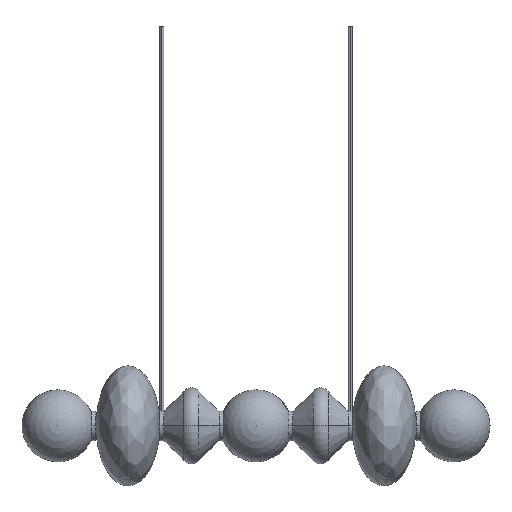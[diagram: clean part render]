
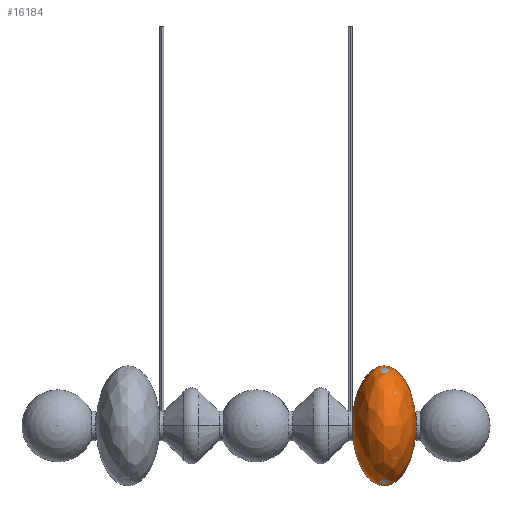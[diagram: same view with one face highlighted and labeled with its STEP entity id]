
A CAD part, top view. The second image highlights one B-rep face of the part: STEP entity #16184.
In plain terms, the highlighted free-form (B-spline) face has degree [3, 3] with [4, 4] control points.
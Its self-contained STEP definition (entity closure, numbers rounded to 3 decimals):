
#43 = EDGE_CURVE ( 'NONE', #19046, #16410, #8074, .T. ) ;
#373 = CARTESIAN_POINT ( 'NONE',  ( 240.564, -6., 0. ) ) ;
#482 = DIRECTION ( 'NONE',  ( -1., 0., 0. ) ) ;
#642 = CARTESIAN_POINT ( 'NONE',  ( 246.485, 283.333, 0. ) ) ;
#1115 = CARTESIAN_POINT ( 'NONE',  ( 400.436, 6., 12. ) ) ;
#1186 = CARTESIAN_POINT ( 'NONE',  ( 400.436, 6., 0. ) ) ;
#1834 = CIRCLE ( 'NONE', #21660, 6. ) ;
#2294 = DIRECTION ( 'NONE',  ( 0., 0., 1. ) ) ;
#2505 = VERTEX_POINT ( 'NONE', #19198 ) ;
#2628 = CARTESIAN_POINT ( 'NONE',  ( 394.515, 283.333, 0. ) ) ;
#3512 = EDGE_LOOP ( 'NONE', ( #9450, #13209, #11008, #4900, #20382, #10271 ) ) ;
#4097 = DIRECTION ( 'NONE',  ( -1., 0., 0. ) ) ;
#4369 = EDGE_CURVE ( 'NONE', #6235, #16410, #13677, .T. ) ;
#4423 = CARTESIAN_POINT ( 'NONE',  ( 400.436, -6., 12. ) ) ;
#4495 = CARTESIAN_POINT ( 'NONE',  ( 240.564, -6., 12. ) ) ;
#4571 = CARTESIAN_POINT ( 'NONE',  ( 240.564, -6., 0. ) ) ;
#4900 = ORIENTED_EDGE ( 'NONE', *, *, #4369, .T. ) ;
#5615 = AXIS2_PLACEMENT_3D ( 'NONE', #8913, #482, #2294 ) ;
#6001 =( BOUNDED_SURFACE ( )  B_SPLINE_SURFACE ( 3, 3, ( 
 ( #21503, #4423, #1115, #1186 ),
 ( #19938, #11274, #9631, #2628 ),
 ( #16341, #9707, #6302, #14854 ),
 ( #4571, #4495, #16560, #16491 ) ),
 .UNSPECIFIED., .F., .F., .F. ) 
 B_SPLINE_SURFACE_WITH_KNOTS ( ( 4, 4 ),
 ( 4, 4 ),
 ( 0., 1. ),
 ( 0., 1. ),
 .UNSPECIFIED. ) 
 GEOMETRIC_REPRESENTATION_ITEM ( )  RATIONAL_B_SPLINE_SURFACE ( (
 ( 1., 0.333, 0.333, 1.),
 ( 0.36, 0.12, 0.12, 0.36),
 ( 0.36, 0.12, 0.12, 0.36),
 ( 1., 0.333, 0.333, 1.) ) ) 
 REPRESENTATION_ITEM ( '' )  SURFACE ( )  );
#6235 = VERTEX_POINT ( 'NONE', #10679 ) ;
#6248 = EDGE_CURVE ( 'NONE', #9118, #2505, #8611, .T. ) ;
#6302 = CARTESIAN_POINT ( 'NONE',  ( 246.485, 283.333, 566.667 ) ) ;
#6306 = FACE_OUTER_BOUND ( 'NONE', #3512, .T. ) ;
#7250 = DIRECTION ( 'NONE',  ( 0., 0., 1. ) ) ;
#7290 = CARTESIAN_POINT ( 'NONE',  ( 394.515, -283.333, 0. ) ) ;
#7563 = CARTESIAN_POINT ( 'NONE',  ( 240.564, 6., 0. ) ) ;
#8074 = CIRCLE ( 'NONE', #12466, 6. ) ;
#8611 =( BOUNDED_CURVE ( )  B_SPLINE_CURVE ( 3, ( #21061, #7290, #10826, #373 ),
 .UNSPECIFIED., .F., .T. ) 
 B_SPLINE_CURVE_WITH_KNOTS ( ( 4, 4 ),
 ( 4.752, 7.814 ),
 .UNSPECIFIED. ) 
 CURVE ( )  GEOMETRIC_REPRESENTATION_ITEM ( )  RATIONAL_B_SPLINE_CURVE ( ( 1., 0.36, 0.36, 1. ) ) 
 REPRESENTATION_ITEM ( '' )  );
#8913 = CARTESIAN_POINT ( 'NONE',  ( 240.564, 0., 0. ) ) ;
#9118 = VERTEX_POINT ( 'NONE', #13052 ) ;
#9301 = CARTESIAN_POINT ( 'NONE',  ( 400.436, 6., 0. ) ) ;
#9370 = CIRCLE ( 'NONE', #5615, 6. ) ;
#9450 = ORIENTED_EDGE ( 'NONE', *, *, #6248, .F. ) ;
#9521 = DIRECTION ( 'NONE',  ( -1., 0., 0. ) ) ;
#9631 = CARTESIAN_POINT ( 'NONE',  ( 394.515, 283.333, 566.667 ) ) ;
#9707 = CARTESIAN_POINT ( 'NONE',  ( 246.485, -283.333, 566.667 ) ) ;
#10271 = ORIENTED_EDGE ( 'NONE', *, *, #10314, .F. ) ;
#10314 = EDGE_CURVE ( 'NONE', #2505, #19046, #9370, .T. ) ;
#10679 = CARTESIAN_POINT ( 'NONE',  ( 400.436, 6., 0. ) ) ;
#10826 = CARTESIAN_POINT ( 'NONE',  ( 246.485, -283.333, 0. ) ) ;
#11008 = ORIENTED_EDGE ( 'NONE', *, *, #14595, .T. ) ;
#11274 = CARTESIAN_POINT ( 'NONE',  ( 394.515, -283.333, 566.667 ) ) ;
#11639 = CARTESIAN_POINT ( 'NONE',  ( 240.564, 6., 0. ) ) ;
#12280 = CARTESIAN_POINT ( 'NONE',  ( 400.436, 0., 0. ) ) ;
#12466 = AXIS2_PLACEMENT_3D ( 'NONE', #19394, #4097, #19623 ) ;
#13052 = CARTESIAN_POINT ( 'NONE',  ( 400.436, -6., 0. ) ) ;
#13209 = ORIENTED_EDGE ( 'NONE', *, *, #21816, .T. ) ;
#13677 =( BOUNDED_CURVE ( )  B_SPLINE_CURVE ( 3, ( #9301, #17819, #642, #7563 ),
 .UNSPECIFIED., .F., .T. ) 
 B_SPLINE_CURVE_WITH_KNOTS ( ( 4, 4 ),
 ( 4.752, 7.814 ),
 .UNSPECIFIED. ) 
 CURVE ( )  GEOMETRIC_REPRESENTATION_ITEM ( )  RATIONAL_B_SPLINE_CURVE ( ( 1., 0.36, 0.36, 1. ) ) 
 REPRESENTATION_ITEM ( '' )  );
#14119 = CARTESIAN_POINT ( 'NONE',  ( 240.564, 0., 6. ) ) ;
#14595 = EDGE_CURVE ( 'NONE', #19103, #6235, #14642, .T. ) ;
#14642 = CIRCLE ( 'NONE', #22150, 6. ) ;
#14854 = CARTESIAN_POINT ( 'NONE',  ( 246.485, 283.333, 0. ) ) ;
#16184 = ADVANCED_FACE ( 'NONE', ( #6306 ), #6001, .F. ) ;
#16341 = CARTESIAN_POINT ( 'NONE',  ( 246.485, -283.333, 0. ) ) ;
#16410 = VERTEX_POINT ( 'NONE', #11639 ) ;
#16491 = CARTESIAN_POINT ( 'NONE',  ( 240.564, 6., 0. ) ) ;
#16560 = CARTESIAN_POINT ( 'NONE',  ( 240.564, 6., 12. ) ) ;
#17510 = DIRECTION ( 'NONE',  ( -1., 0., 0. ) ) ;
#17819 = CARTESIAN_POINT ( 'NONE',  ( 394.515, 283.333, 0. ) ) ;
#19046 = VERTEX_POINT ( 'NONE', #14119 ) ;
#19103 = VERTEX_POINT ( 'NONE', #20771 ) ;
#19198 = CARTESIAN_POINT ( 'NONE',  ( 240.564, -6., 0. ) ) ;
#19394 = CARTESIAN_POINT ( 'NONE',  ( 240.564, 0., 0. ) ) ;
#19623 = DIRECTION ( 'NONE',  ( 0., 0., 1. ) ) ;
#19755 = CARTESIAN_POINT ( 'NONE',  ( 400.436, 0., 0. ) ) ;
#19938 = CARTESIAN_POINT ( 'NONE',  ( 394.515, -283.333, 0. ) ) ;
#20382 = ORIENTED_EDGE ( 'NONE', *, *, #43, .F. ) ;
#20771 = CARTESIAN_POINT ( 'NONE',  ( 400.436, 0., 6. ) ) ;
#21061 = CARTESIAN_POINT ( 'NONE',  ( 400.436, -6., 0. ) ) ;
#21466 = DIRECTION ( 'NONE',  ( 0., 0., 1. ) ) ;
#21503 = CARTESIAN_POINT ( 'NONE',  ( 400.436, -6., 0. ) ) ;
#21660 = AXIS2_PLACEMENT_3D ( 'NONE', #19755, #9521, #21466 ) ;
#21816 = EDGE_CURVE ( 'NONE', #9118, #19103, #1834, .T. ) ;
#22150 = AXIS2_PLACEMENT_3D ( 'NONE', #12280, #17510, #7250 ) ;
